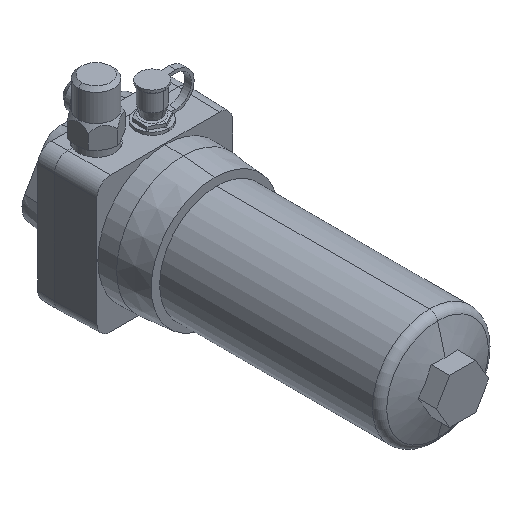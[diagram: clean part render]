
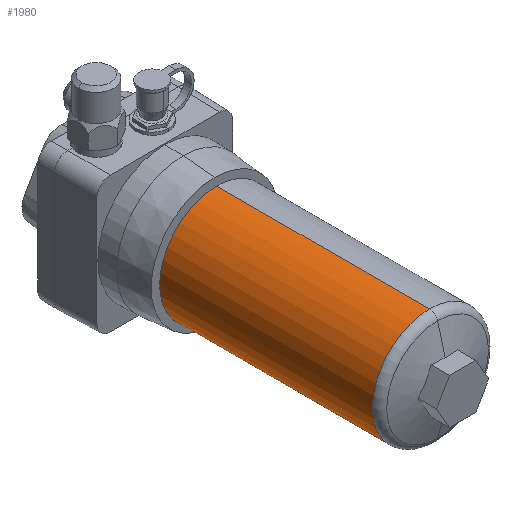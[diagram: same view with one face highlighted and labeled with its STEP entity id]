
A CAD part, isometric view. The second image highlights one B-rep face of the part: STEP entity #1980.
In plain terms, the highlighted cylindrical face has radius 34.1 mm (diameter 68.2 mm), a partial arc.
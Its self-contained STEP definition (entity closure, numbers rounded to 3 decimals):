
#334 = CARTESIAN_POINT ( 'NONE',  ( 0., -203., 34.1 ) ) ;
#433 = EDGE_CURVE ( 'NONE', #10520, #11396, #6117, .T. ) ;
#434 = DIRECTION ( 'NONE',  ( 0., -1., 0. ) ) ;
#536 = CIRCLE ( 'NONE', #13344, 34.1 ) ;
#997 = ORIENTED_EDGE ( 'NONE', *, *, #433, .F. ) ;
#1435 = CARTESIAN_POINT ( 'NONE',  ( 0., -183.163, 34.1 ) ) ;
#1515 = DIRECTION ( 'NONE',  ( 0., -1., 0. ) ) ;
#1980 = ADVANCED_FACE ( 'NONE', ( #14823 ), #4862, .T. ) ;
#2399 = VERTEX_POINT ( 'NONE', #4425 ) ;
#2505 = CARTESIAN_POINT ( 'NONE',  ( 0., -183.163, -34.1 ) ) ;
#2606 = CARTESIAN_POINT ( 'NONE',  ( 0., -203., -34.1 ) ) ;
#2813 = DIRECTION ( 'NONE',  ( 0., -1., 0. ) ) ;
#2915 = DIRECTION ( 'NONE',  ( 0., 0., 1. ) ) ;
#4425 = CARTESIAN_POINT ( 'NONE',  ( 0., -56., -34.1 ) ) ;
#4628 = VECTOR ( 'NONE', #434, 1000. ) ;
#4862 = CYLINDRICAL_SURFACE ( 'NONE', #9386, 34.1 ) ;
#5509 = DIRECTION ( 'NONE',  ( 1., 0., 0. ) ) ;
#6117 = LINE ( 'NONE', #334, #4628 ) ;
#6603 = CARTESIAN_POINT ( 'NONE',  ( 0., -56., 34.1 ) ) ;
#6794 = EDGE_CURVE ( 'NONE', #2399, #15129, #12587, .T. ) ;
#7538 = EDGE_CURVE ( 'NONE', #10520, #2399, #13206, .T. ) ;
#7938 = CARTESIAN_POINT ( 'NONE',  ( 0., -56., 0. ) ) ;
#9386 = AXIS2_PLACEMENT_3D ( 'NONE', #11243, #13551, #2915 ) ;
#9920 = DIRECTION ( 'NONE',  ( 0., 0., 1. ) ) ;
#10520 = VERTEX_POINT ( 'NONE', #6603 ) ;
#10713 = VECTOR ( 'NONE', #1515, 1000. ) ;
#11243 = CARTESIAN_POINT ( 'NONE',  ( 0., -203., 0. ) ) ;
#11298 = CARTESIAN_POINT ( 'NONE',  ( 0., -183.163, 0. ) ) ;
#11396 = VERTEX_POINT ( 'NONE', #1435 ) ;
#11959 = EDGE_CURVE ( 'NONE', #11396, #15129, #536, .T. ) ;
#12587 = LINE ( 'NONE', #2606, #10713 ) ;
#13206 = CIRCLE ( 'NONE', #14914, 34.1 ) ;
#13336 = EDGE_LOOP ( 'NONE', ( #14349, #14191, #14575, #997 ) ) ;
#13344 = AXIS2_PLACEMENT_3D ( 'NONE', #11298, #2813, #9920 ) ;
#13551 = DIRECTION ( 'NONE',  ( 0., -1., 0. ) ) ;
#13746 = DIRECTION ( 'NONE',  ( 0., -1., 0. ) ) ;
#14191 = ORIENTED_EDGE ( 'NONE', *, *, #6794, .T. ) ;
#14349 = ORIENTED_EDGE ( 'NONE', *, *, #7538, .T. ) ;
#14575 = ORIENTED_EDGE ( 'NONE', *, *, #11959, .F. ) ;
#14823 = FACE_OUTER_BOUND ( 'NONE', #13336, .T. ) ;
#14914 = AXIS2_PLACEMENT_3D ( 'NONE', #7938, #13746, #5509 ) ;
#15129 = VERTEX_POINT ( 'NONE', #2505 ) ;
